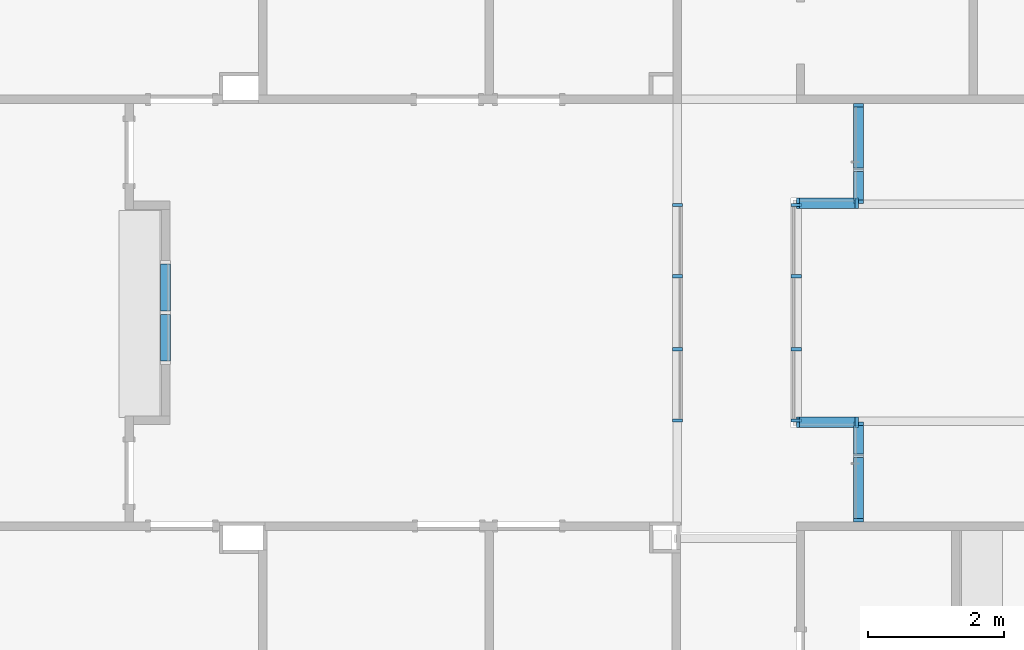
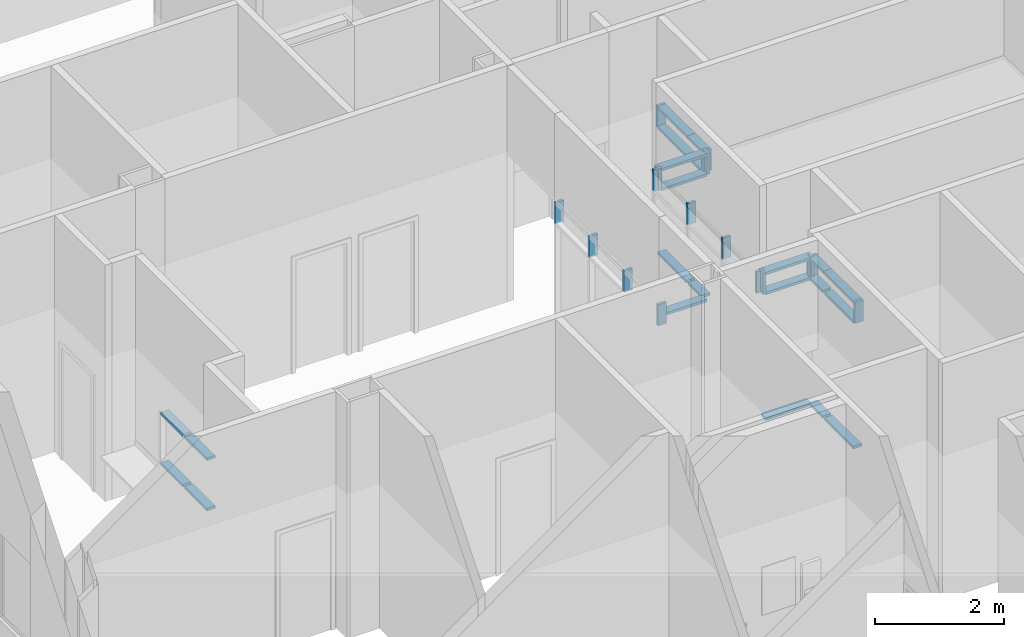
# One storey, part 11 of 87: 38 members, 7 elements without a shape of their own.
"""IFC2X3 building model written with IfcOpenShell, lengths in metres."""

from ifc_helpers import new_model, entity, si_unit, converted_unit, frame, origin, origin_2d_with_axis, place, context, project, spatial, rectangle, extrude, source, transform, mapped, material, type_object, type_shapes, element, aggregate, save


model = new_model("IFC2X3")

# Units and contexts
model_context = context("Model", 3, precision=1e-09, world=origin())
plan_context = context("Plan", 3, precision=1e-09, world=origin())
ifc_project = project(units=[si_unit("LENGTHUNIT", "METRE"), si_unit("AREAUNIT", "SQUARE_METRE"), si_unit("VOLUMEUNIT", "CUBIC_METRE"), converted_unit("PLANEANGLEUNIT", "DEGREE", entity("IfcRatioMeasure", 0.01745329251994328), si_unit("PLANEANGLEUNIT", "RADIAN"), dimensions=[0, 0, 0, 0, 0, 0, 0]), si_unit("TIMEUNIT", "SECOND")], contexts=[model_context, plan_context])

# Site, building, storey
site_placement = place(None, origin())
site = spatial("IfcSite", under=ifc_project, at=site_placement, Name="Default", CompositionType="ELEMENT")
building_placement = place(site_placement, origin())
building = spatial("IfcBuilding", under=site, at=building_placement, CompositionType="ELEMENT")
storey_placement = place(building_placement, origin())
storey = spatial("IfcBuildingStorey", under=building, at=storey_placement, Name="First Floor", CompositionType="ELEMENT", Elevation=-3.531500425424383e-13)

# Curtain wall, members
curtain_wall_1_placement = place(storey_placement, origin())
curtain_wall_1 = element("IfcCurtainWall", 1, at=curtain_wall_1_placement, inside=storey, Name="Curtain Wall:Storefront - Interior", ObjectType="Curtain Wall:Storefront - Interior")
ifc_material = material(Name="Metal - Aluminium")
member_type_1 = type_object("IfcMemberType", Name="50 x 150mm", PredefinedType="MULLION")
shared_shape_1 = source(origin(), model_context, "Body", "SweptSolid", [
    extrude(rectangle(XDim=0.05, YDim=0.15, at=origin_2d_with_axis()), frame((-0.025, 0.0, -0.4439994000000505), z_axis=(0.0, 0.0, 1.0), x_axis=(-1.0, 0.0, 0.0)), (0.0, 0.0, 1.0), 0.4439994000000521),
])
type_shapes(member_type_1, [shared_shape_1])
member_1_placement = place(storey_placement, frame((-37.80500000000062, 30.02999999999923, 2.8), z_axis=(0.0, 1.0, 0.0), x_axis=(0.0, 0.0, 1.0)))
member_1 = element("IfcMember", 2, at=member_1_placement, type_object=member_type_1, material=ifc_material, Name="Rectangular Mullion:50 x 150mm:50 x 150mm", ObjectType="50 x 150mm", context=model_context, shape_type="MappedRepresentation", body=[
    mapped(shared_shape_1, transform((0.0, 0.0, 0.0), scale=1.0)),
])
member_type_2 = type_object("IfcMemberType", Name="50 x 150mm", PredefinedType="MULLION")
shared_shape_2 = source(origin(), model_context, "Body", "SweptSolid", [
    extrude(rectangle(XDim=0.05, YDim=0.15, at=origin_2d_with_axis()), frame((-0.025, 0.0, -0.9010005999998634), z_axis=(0.0, 0.0, 1.0), x_axis=(-1.0, 0.0, 0.0)), (0.0, 0.0, 1.0), 0.9010005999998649),
])
type_shapes(member_type_2, [shared_shape_2])
member_2_placement = place(storey_placement, frame((-37.80500000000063, 28.65999999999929, 0.0), z_axis=(0.0, -1.0, 0.0), x_axis=(0.0, 0.0, -1.0)))
member_2 = element("IfcMember", 3, at=member_2_placement, type_object=member_type_2, material=ifc_material, Name="Rectangular Mullion:50 x 150mm:50 x 150mm", ObjectType="50 x 150mm", context=model_context, shape_type="MappedRepresentation", body=[
    mapped(shared_shape_2, transform((0.0, 0.0, 0.0), scale=1.0)),
])
member_type_3 = type_object("IfcMemberType", Name="50 x 150mm", PredefinedType="MULLION")
shared_shape_3 = source(origin(), model_context, "Body", "SweptSolid", [
    extrude(rectangle(XDim=0.05, YDim=0.15, at=origin_2d_with_axis()), frame((-0.025, 0.0, -0.4), z_axis=(0.0, 0.0, 1.0), x_axis=(-1.0, 0.0, 0.0)), (0.0, 0.0, 1.0), 0.4),
])
type_shapes(member_type_3, [shared_shape_3])
member_3_placement = place(storey_placement, frame((-37.80500000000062, 30.07999999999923, 2.399999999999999), z_axis=(0.0, 0.0, -1.0), x_axis=(0.0, 1.0, 0.0)))
member_3 = element("IfcMember", 4, at=member_3_placement, type_object=member_type_3, material=ifc_material, Name="Rectangular Mullion:50 x 150mm:50 x 150mm", ObjectType="50 x 150mm", context=model_context, shape_type="MappedRepresentation", body=[
    mapped(shared_shape_3, transform((0.0, 0.0, 0.0), scale=1.0)),
])

# Curtain wall, member
curtain_wall_2_placement = place(storey_placement, origin())
curtain_wall_2 = element("IfcCurtainWall", 5, at=curtain_wall_2_placement, inside=storey, Name="Curtain Wall:Storefront - Interior", ObjectType="Curtain Wall:Storefront - Interior")
member_4_placement = place(storey_placement, frame((-38.72000000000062, 30.07999999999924, 2.399999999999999), z_axis=(0.0, 0.0, -1.0), x_axis=(-1.0, 0.0, 0.0)))
member_4 = element("IfcMember", 6, at=member_4_placement, type_object=member_type_3, material=ifc_material, Name="Rectangular Mullion:50 x 150mm:50 x 150mm", ObjectType="50 x 150mm", context=model_context, shape_type="MappedRepresentation", body=[
    mapped(shared_shape_3, transform((0.0, 0.0, 0.0), scale=1.0)),
])

curtain_wall_3_placement = place(storey_placement, origin())
curtain_wall_3 = element("IfcCurtainWall", 7, at=curtain_wall_3_placement, inside=storey, Name="Curtain Wall:Storefront - Interior", ObjectType="Curtain Wall:Storefront - Interior")
member_5_placement = place(storey_placement, frame((-38.72000000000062, 33.30999999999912, 2.399999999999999), z_axis=(0.0, 0.0, -1.0), x_axis=(0.0, 1.0, 0.0)))
member_5 = element("IfcMember", 8, at=member_5_placement, type_object=member_type_3, material=ifc_material, Name="Rectangular Mullion:50 x 150mm:50 x 150mm", ObjectType="50 x 150mm", context=model_context, shape_type="MappedRepresentation", body=[
    mapped(shared_shape_3, transform((0.0, 0.0, 0.0), scale=1.0)),
])

curtain_wall_4_placement = place(storey_placement, origin())
curtain_wall_4 = element("IfcCurtainWall", 9, at=curtain_wall_4_placement, inside=storey, Name="Curtain Wall:Storefront - Interior", ObjectType="Curtain Wall:Storefront - Interior")
member_6_placement = place(storey_placement, frame((-37.80500000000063, 33.30999999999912, 2.399999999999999), z_axis=(0.0, 0.0, -1.0), x_axis=(1.0, 0.0, 0.0)))
member_6 = element("IfcMember", 10, at=member_6_placement, type_object=member_type_3, material=ifc_material, Name="Rectangular Mullion:50 x 150mm:50 x 150mm", ObjectType="50 x 150mm", context=model_context, shape_type="MappedRepresentation", body=[
    mapped(shared_shape_3, transform((0.0, 0.0, 0.0), scale=1.0)),
])

curtain_wall_5_placement = place(storey_placement, origin())
curtain_wall_5 = element("IfcCurtainWall", 11, at=curtain_wall_5_placement, inside=storey, Name="Curtain Wall:Storefront - Interior", ObjectType="Curtain Wall:Storefront - Interior")
member_7_placement = place(storey_placement, frame((-37.80500000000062, 34.77954814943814, 2.399999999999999), z_axis=(0.0, 0.0, -1.0), x_axis=(0.0, 1.0, 0.0)))
member_7 = element("IfcMember", 12, at=member_7_placement, type_object=member_type_3, material=ifc_material, Name="Rectangular Mullion:50 x 150mm:50 x 150mm", ObjectType="50 x 150mm", context=model_context, shape_type="MappedRepresentation", body=[
    mapped(shared_shape_3, transform((0.0, 0.0, 0.0), scale=1.0)),
])

curtain_wall_6_placement = place(storey_placement, origin())
curtain_wall_6 = element("IfcCurtainWall", 13, at=curtain_wall_6_placement, inside=storey, Name="Curtain Wall:Storefront - Interior", ObjectType="Curtain Wall:Storefront - Interior")
member_8_placement = place(storey_placement, frame((-40.47500000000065, 30.07999999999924, 2.4), z_axis=(0.0, 0.0, -1.0), x_axis=(0.0, -1.0, 0.0)))
member_8 = element("IfcMember", 14, at=member_8_placement, type_object=member_type_3, material=ifc_material, Name="Rectangular Mullion:50 x 150mm:50 x 150mm", ObjectType="50 x 150mm", context=model_context, shape_type="MappedRepresentation", body=[
    mapped(shared_shape_3, transform((0.0, 0.0, 0.0), scale=1.0)),
])

# Member
member_type_4 = type_object("IfcMemberType", Name="50 x 150mm", PredefinedType="MULLION")
shared_shape_4 = source(origin(), model_context, "Body", "SweptSolid", [
    extrude(rectangle(XDim=0.05, YDim=0.15, at=origin_2d_with_axis()), frame((-0.025, 0.0, -0.4), z_axis=(0.0, 0.0, 1.0), x_axis=(-1.0, 0.0, 0.0)), (0.0, 0.0, 1.0), 0.4),
])
type_shapes(member_type_4, [shared_shape_4])
member_9_placement = place(storey_placement, frame((-37.80500000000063, 28.60999999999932, 2.8), z_axis=(0.0, 0.0, 1.0), x_axis=(0.0, -1.0, 0.0)))
member_9 = element("IfcMember", 15, at=member_9_placement, type_object=member_type_4, material=ifc_material, Name="Rectangular Mullion:50 x 150mm:50 x 150mm", ObjectType="50 x 150mm", context=model_context, shape_type="MappedRepresentation", body=[
    mapped(shared_shape_4, transform((0.0, 0.0, 0.0), scale=1.0)),
])

member_10_placement = place(storey_placement, frame((-37.80500000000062, 30.07999999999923, 2.8)))
member_10 = element("IfcMember", 16, at=member_10_placement, type_object=member_type_4, material=ifc_material, Name="Rectangular Mullion:50 x 150mm:50 x 150mm", ObjectType="50 x 150mm", context=model_context, shape_type="MappedRepresentation", body=[
    mapped(shared_shape_4, transform((0.0, 0.0, 0.0), scale=1.0)),
])

member_11_placement = place(storey_placement, frame((-38.72000000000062, 30.07999999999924, 2.8), z_axis=(0.0, 0.0, 1.0), x_axis=(0.0, -1.0, 0.0)))
member_11 = element("IfcMember", 17, at=member_11_placement, type_object=member_type_4, material=ifc_material, Name="Rectangular Mullion:50 x 150mm:50 x 150mm", ObjectType="50 x 150mm", context=model_context, shape_type="MappedRepresentation", body=[
    mapped(shared_shape_4, transform((0.0, 0.0, 0.0), scale=1.0)),
])

member_12_placement = place(storey_placement, frame((-38.72000000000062, 33.30999999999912, 2.8), z_axis=(0.0, 0.0, 1.0), x_axis=(-1.0, 0.0, 0.0)))
member_12 = element("IfcMember", 18, at=member_12_placement, type_object=member_type_4, material=ifc_material, Name="Rectangular Mullion:50 x 150mm:50 x 150mm", ObjectType="50 x 150mm", context=model_context, shape_type="MappedRepresentation", body=[
    mapped(shared_shape_4, transform((0.0, 0.0, 0.0), scale=1.0)),
])

member_13_placement = place(storey_placement, frame((-37.80500000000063, 33.30999999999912, 2.8), z_axis=(0.0, 0.0, 1.0), x_axis=(0.0, -1.0, 0.0)))
member_13 = element("IfcMember", 19, at=member_13_placement, type_object=member_type_4, material=ifc_material, Name="Rectangular Mullion:50 x 150mm:50 x 150mm", ObjectType="50 x 150mm", context=model_context, shape_type="MappedRepresentation", body=[
    mapped(shared_shape_4, transform((0.0, 0.0, 0.0), scale=1.0)),
])

member_14_placement = place(storey_placement, frame((-40.47500000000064, 33.30999999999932, 2.8), z_axis=(0.0, 0.0, 1.0), x_axis=(0.0, 1.0, 0.0)))
member_14 = element("IfcMember", 20, at=member_14_placement, type_object=member_type_4, material=ifc_material, Name="Rectangular Mullion:50 x 150mm:50 x 150mm", ObjectType="50 x 150mm", context=model_context, shape_type="MappedRepresentation", body=[
    mapped(shared_shape_4, transform((0.0, 0.0, 0.0), scale=1.0)),
])

member_type_5 = type_object("IfcMemberType", Name="50 x 150mm", PredefinedType="MULLION")
shared_shape_5 = source(origin(), model_context, "Body", "SweptSolid", [
    extrude(rectangle(XDim=0.05, YDim=0.15, at=origin_2d_with_axis()), frame((0.0, 0.0, -0.9010005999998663), z_axis=(0.0, 0.0, 1.0), x_axis=(-1.0, 0.0, 0.0)), (0.0, 0.0, 1.0), 0.9010005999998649),
])
type_shapes(member_type_5, [shared_shape_5])
member_15_placement = place(storey_placement, frame((-37.80500000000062, 29.56100059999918, 2.399999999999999), z_axis=(0.0, 1.0, 0.0), x_axis=(0.0, 0.0, 1.0)))
member_15 = element("IfcMember", 21, at=member_15_placement, type_object=member_type_5, material=ifc_material, Name="Rectangular Mullion:50 x 150mm:50 x 150mm", ObjectType="50 x 150mm", context=model_context, shape_type="MappedRepresentation", body=[
    mapped(shared_shape_5, transform((0.0, 0.0, 0.0), scale=1.0)),
])

member_type_6 = type_object("IfcMemberType", Name="50 x 150mm", PredefinedType="MULLION")
shared_shape_6 = source(origin(), model_context, "Body", "SweptSolid", [
    extrude(rectangle(XDim=0.05, YDim=0.15, at=origin_2d_with_axis()), frame((-0.025, 0.0, -0.926000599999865), z_axis=(0.0, 0.0, 1.0), x_axis=(-1.0, 0.0, 0.0)), (0.0, 0.0, 1.0), 0.926000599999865),
])
type_shapes(member_type_6, [shared_shape_6])
member_16_placement = place(storey_placement, frame((-37.80500000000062, 29.58600059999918, 2.8), z_axis=(0.0, 1.0, 0.0), x_axis=(0.0, 0.0, 1.0)))
member_16 = element("IfcMember", 22, at=member_16_placement, type_object=member_type_6, material=ifc_material, Name="Rectangular Mullion:50 x 150mm:50 x 150mm", ObjectType="50 x 150mm", context=model_context, shape_type="MappedRepresentation", body=[
    mapped(shared_shape_6, transform((0.0, 0.0, 0.0), scale=1.0)),
])

member_type_7 = type_object("IfcMemberType", Name="50 x 150mm", PredefinedType="MULLION")
shared_shape_7 = source(origin(), model_context, "Body", "SweptSolid", [
    extrude(rectangle(XDim=0.05, YDim=0.15, at=origin_2d_with_axis()), frame((-0.025, 0.0, -0.4189994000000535), z_axis=(0.0, 0.0, 1.0), x_axis=(-1.0, 0.0, 0.0)), (0.0, 0.0, 1.0), 0.4189994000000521),
])
type_shapes(member_type_7, [shared_shape_7])
member_17_placement = place(storey_placement, frame((-37.80500000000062, 29.61100059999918, 0.0), z_axis=(0.0, -1.0, 0.0), x_axis=(0.0, 0.0, -1.0)))
member_17 = element("IfcMember", 23, at=member_17_placement, type_object=member_type_7, material=ifc_material, Name="Rectangular Mullion:50 x 150mm:50 x 150mm", ObjectType="50 x 150mm", context=model_context, shape_type="MappedRepresentation", body=[
    mapped(shared_shape_7, transform((0.0, 0.0, 0.0), scale=1.0)),
])

member_type_8 = type_object("IfcMemberType", Name="50 x 150mm", PredefinedType="MULLION")
shared_shape_8 = source(origin(), model_context, "Body", "SweptSolid", [
    extrude(rectangle(XDim=0.05, YDim=0.15, at=origin_2d_with_axis()), frame((0.0, 0.0, -0.4189994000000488), z_axis=(0.0, 0.0, 1.0), x_axis=(-1.0, 0.0, 0.0)), (0.0, 0.0, 1.0), 0.4189994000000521),
])
type_shapes(member_type_8, [shared_shape_8])
member_18_placement = place(storey_placement, frame((-37.80500000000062, 30.02999999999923, 2.399999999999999), z_axis=(0.0, 1.0, 0.0), x_axis=(0.0, 0.0, 1.0)))
member_18 = element("IfcMember", 24, at=member_18_placement, type_object=member_type_8, material=ifc_material, Name="Rectangular Mullion:50 x 150mm:50 x 150mm", ObjectType="50 x 150mm", context=model_context, shape_type="MappedRepresentation", body=[
    mapped(shared_shape_8, transform((0.0, 0.0, 0.0), scale=1.0)),
])

aggregate(curtain_wall_1, [member_1, member_2, member_3, member_9, member_15, member_16, member_17, member_18])

member_type_9 = type_object("IfcMemberType", Name="50 x 150mm", PredefinedType="MULLION")
shared_shape_9 = source(origin(), model_context, "Body", "SweptSolid", [
    extrude(rectangle(XDim=0.05, YDim=0.15, at=origin_2d_with_axis()), frame((-0.025, 0.0, -0.8149999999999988), z_axis=(0.0, 0.0, 1.0), x_axis=(-1.0, 0.0, 0.0)), (0.0, 0.0, 1.0), 0.815),
])
type_shapes(member_type_9, [shared_shape_9])
member_19_placement = place(storey_placement, frame((-38.67000000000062, 30.07999999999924, 2.8), z_axis=(-1.0, 0.0, 0.0), x_axis=(0.0, 0.0, 1.0)))
member_19 = element("IfcMember", 25, at=member_19_placement, type_object=member_type_9, material=ifc_material, Name="Rectangular Mullion:50 x 150mm:50 x 150mm", ObjectType="50 x 150mm", context=model_context, shape_type="MappedRepresentation", body=[
    mapped(shared_shape_9, transform((0.0, 0.0, 0.0), scale=1.0)),
])

member_20_placement = place(storey_placement, frame((-37.85500000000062, 33.30999999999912, 2.8), z_axis=(1.0, 0.0, 0.0), x_axis=(0.0, 0.0, 1.0)))
member_20 = element("IfcMember", 26, at=member_20_placement, type_object=member_type_9, material=ifc_material, Name="Rectangular Mullion:50 x 150mm:50 x 150mm", ObjectType="50 x 150mm", context=model_context, shape_type="MappedRepresentation", body=[
    mapped(shared_shape_9, transform((0.0, 0.0, 0.0), scale=1.0)),
])

member_type_10 = type_object("IfcMemberType", Name="50 x 150mm", PredefinedType="MULLION")
shared_shape_10 = source(origin(), model_context, "Body", "SweptSolid", [
    extrude(rectangle(XDim=0.05, YDim=0.15, at=origin_2d_with_axis()), frame((-0.025, 0.0, -0.8149999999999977), z_axis=(0.0, 0.0, 1.0), x_axis=(-1.0, 0.0, 0.0)), (0.0, 0.0, 1.0), 0.815),
])
type_shapes(member_type_10, [shared_shape_10])
member_21_placement = place(storey_placement, frame((-37.85500000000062, 30.07999999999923, 0.0), z_axis=(1.0, 0.0, 0.0), x_axis=(0.0, 0.0, -1.0)))
member_21 = element("IfcMember", 27, at=member_21_placement, type_object=member_type_10, material=ifc_material, Name="Rectangular Mullion:50 x 150mm:50 x 150mm", ObjectType="50 x 150mm", context=model_context, shape_type="MappedRepresentation", body=[
    mapped(shared_shape_10, transform((0.0, 0.0, 0.0), scale=1.0)),
])

member_22_placement = place(storey_placement, frame((-38.67000000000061, 33.30999999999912, 0.0), z_axis=(-1.0, 0.0, 0.0), x_axis=(0.0, 0.0, -1.0)))
member_22 = element("IfcMember", 28, at=member_22_placement, type_object=member_type_10, material=ifc_material, Name="Rectangular Mullion:50 x 150mm:50 x 150mm", ObjectType="50 x 150mm", context=model_context, shape_type="MappedRepresentation", body=[
    mapped(shared_shape_10, transform((0.0, 0.0, 0.0), scale=1.0)),
])

member_type_11 = type_object("IfcMemberType", Name="50 x 150mm", PredefinedType="MULLION")
shared_shape_11 = source(origin(), model_context, "Body", "SweptSolid", [
    extrude(rectangle(XDim=0.05, YDim=0.15, at=origin_2d_with_axis()), frame((0.0, 0.0, -0.8149999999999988), z_axis=(0.0, 0.0, 1.0), x_axis=(-1.0, 0.0, 0.0)), (0.0, 0.0, 1.0), 0.815),
])
type_shapes(member_type_11, [shared_shape_11])
member_23_placement = place(storey_placement, frame((-38.67000000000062, 30.07999999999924, 2.399999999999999), z_axis=(-1.0, 0.0, 0.0), x_axis=(0.0, 0.0, 1.0)))
member_23 = element("IfcMember", 29, at=member_23_placement, type_object=member_type_11, material=ifc_material, Name="Rectangular Mullion:50 x 150mm:50 x 150mm", ObjectType="50 x 150mm", context=model_context, shape_type="MappedRepresentation", body=[
    mapped(shared_shape_11, transform((0.0, 0.0, 0.0), scale=1.0)),
])

aggregate(curtain_wall_2, [member_19, member_21, member_4, member_10, member_23])

member_24_placement = place(storey_placement, frame((-37.85500000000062, 33.30999999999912, 2.399999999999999), z_axis=(1.0, 0.0, 0.0), x_axis=(0.0, 0.0, 1.0)))
member_24 = element("IfcMember", 30, at=member_24_placement, type_object=member_type_11, material=ifc_material, Name="Rectangular Mullion:50 x 150mm:50 x 150mm", ObjectType="50 x 150mm", context=model_context, shape_type="MappedRepresentation", body=[
    mapped(shared_shape_11, transform((0.0, 0.0, 0.0), scale=1.0)),
])

aggregate(curtain_wall_4, [member_20, member_22, member_6, member_12, member_24])

member_type_12 = type_object("IfcMemberType", Name="50 x 150mm", PredefinedType="MULLION")
shared_shape_12 = source(origin(), model_context, "Body", "SweptSolid", [
    extrude(rectangle(XDim=0.05, YDim=0.15, at=origin_2d_with_axis()), frame((0.0, 0.0, -0.4), z_axis=(0.0, 0.0, 1.0), x_axis=(-1.0, 0.0, 0.0)), (0.0, 0.0, 1.0), 0.4),
])
type_shapes(member_type_12, [shared_shape_12])
member_25_placement = place(storey_placement, frame((-38.72000000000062, 31.15666666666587, 2.399999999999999), z_axis=(0.0, 0.0, -1.0), x_axis=(0.0, 1.0, 0.0)))
member_25 = element("IfcMember", 31, at=member_25_placement, type_object=member_type_12, material=ifc_material, Name="Rectangular Mullion:50 x 150mm:50 x 150mm", ObjectType="50 x 150mm", context=model_context, shape_type="MappedRepresentation", body=[
    mapped(shared_shape_12, transform((0.0, 0.0, 0.0), scale=1.0)),
])

member_26_placement = place(storey_placement, frame((-38.72000000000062, 32.2333333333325, 2.399999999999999), z_axis=(0.0, 0.0, -1.0), x_axis=(0.0, 1.0, 0.0)))
member_26 = element("IfcMember", 32, at=member_26_placement, type_object=member_type_12, material=ifc_material, Name="Rectangular Mullion:50 x 150mm:50 x 150mm", ObjectType="50 x 150mm", context=model_context, shape_type="MappedRepresentation", body=[
    mapped(shared_shape_12, transform((0.0, 0.0, 0.0), scale=1.0)),
])

aggregate(curtain_wall_3, [member_5, member_11, member_25, member_26])

member_27_placement = place(storey_placement, frame((-40.47500000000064, 32.23333333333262, 2.4), z_axis=(0.0, 0.0, -1.0), x_axis=(0.0, -1.0, 0.0)))
member_27 = element("IfcMember", 33, at=member_27_placement, type_object=member_type_12, material=ifc_material, Name="Rectangular Mullion:50 x 150mm:50 x 150mm", ObjectType="50 x 150mm", context=model_context, shape_type="MappedRepresentation", body=[
    mapped(shared_shape_12, transform((0.0, 0.0, 0.0), scale=1.0)),
])

member_28_placement = place(storey_placement, frame((-40.47500000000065, 31.15666666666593, 2.4), z_axis=(0.0, 0.0, -1.0), x_axis=(0.0, -1.0, 0.0)))
member_28 = element("IfcMember", 34, at=member_28_placement, type_object=member_type_12, material=ifc_material, Name="Rectangular Mullion:50 x 150mm:50 x 150mm", ObjectType="50 x 150mm", context=model_context, shape_type="MappedRepresentation", body=[
    mapped(shared_shape_12, transform((0.0, 0.0, 0.0), scale=1.0)),
])

aggregate(curtain_wall_6, [member_8, member_14, member_27, member_28])

member_type_13 = type_object("IfcMemberType", Name="50 x 150mm", PredefinedType="MULLION")
shared_shape_13 = source(origin(), model_context, "Body", "SweptSolid", [
    extrude(rectangle(XDim=0.05, YDim=0.15, at=origin_2d_with_axis()), frame((-0.025, 0.0, -0.9245487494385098), z_axis=(0.0, 0.0, 1.0), x_axis=(-1.0, 0.0, 0.0)), (0.0, 0.0, 1.0), 0.9245487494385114),
])
type_shapes(member_type_13, [shared_shape_13])
member_29_placement = place(storey_placement, frame((-37.80500000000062, 34.72954814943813, 2.8), z_axis=(0.0, 1.0, 0.0), x_axis=(0.0, 0.0, 1.0)))
member_29 = element("IfcMember", 35, at=member_29_placement, type_object=member_type_13, material=ifc_material, Name="Rectangular Mullion:50 x 150mm:50 x 150mm", ObjectType="50 x 150mm", context=model_context, shape_type="MappedRepresentation", body=[
    mapped(shared_shape_13, transform((0.0, 0.0, 0.0), scale=1.0)),
])

member_type_14 = type_object("IfcMemberType", Name="50 x 150mm", PredefinedType="MULLION")
shared_shape_14 = source(origin(), model_context, "Body", "SweptSolid", [
    extrude(rectangle(XDim=0.05, YDim=0.15, at=origin_2d_with_axis()), frame((-0.025, 0.0, -0.4199994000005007), z_axis=(0.0, 0.0, 1.0), x_axis=(-1.0, 0.0, 0.0)), (0.0, 0.0, 1.0), 0.4199994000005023),
])
type_shapes(member_type_14, [shared_shape_14])
member_30_placement = place(storey_placement, frame((-37.80500000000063, 33.35999999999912, 0.0), z_axis=(0.0, -1.0, 0.0), x_axis=(0.0, 0.0, -1.0)))
member_30 = element("IfcMember", 36, at=member_30_placement, type_object=member_type_14, material=ifc_material, Name="Rectangular Mullion:50 x 150mm:50 x 150mm", ObjectType="50 x 150mm", context=model_context, shape_type="MappedRepresentation", body=[
    mapped(shared_shape_14, transform((0.0, 0.0, 0.0), scale=1.0)),
])

member_type_15 = type_object("IfcMemberType", Name="50 x 150mm", PredefinedType="MULLION")
shared_shape_15 = source(origin(), model_context, "Body", "SweptSolid", [
    extrude(rectangle(XDim=0.05, YDim=0.15, at=origin_2d_with_axis()), frame((0.0, 0.0, -0.4199994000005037), z_axis=(0.0, 0.0, 1.0), x_axis=(-1.0, 0.0, 0.0)), (0.0, 0.0, 1.0), 0.4199994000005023),
])
type_shapes(member_type_15, [shared_shape_15])
member_31_placement = place(storey_placement, frame((-37.80500000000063, 33.77999939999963, 2.399999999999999), z_axis=(0.0, 1.0, 0.0), x_axis=(0.0, 0.0, 1.0)))
member_31 = element("IfcMember", 37, at=member_31_placement, type_object=member_type_15, material=ifc_material, Name="Rectangular Mullion:50 x 150mm:50 x 150mm", ObjectType="50 x 150mm", context=model_context, shape_type="MappedRepresentation", body=[
    mapped(shared_shape_15, transform((0.0, 0.0, 0.0), scale=1.0)),
])

member_type_16 = type_object("IfcMemberType", Name="50 x 150mm", PredefinedType="MULLION")
shared_shape_16 = source(origin(), model_context, "Body", "SweptSolid", [
    extrude(rectangle(XDim=0.05, YDim=0.15, at=origin_2d_with_axis()), frame((-0.025, 0.0, -0.4449994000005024), z_axis=(0.0, 0.0, 1.0), x_axis=(-1.0, 0.0, 0.0)), (0.0, 0.0, 1.0), 0.4449994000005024),
])
type_shapes(member_type_16, [shared_shape_16])
member_32_placement = place(storey_placement, frame((-37.80500000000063, 33.80499939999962, 2.8), z_axis=(0.0, 1.0, 0.0), x_axis=(0.0, 0.0, 1.0)))
member_32 = element("IfcMember", 38, at=member_32_placement, type_object=member_type_16, material=ifc_material, Name="Rectangular Mullion:50 x 150mm:50 x 150mm", ObjectType="50 x 150mm", context=model_context, shape_type="MappedRepresentation", body=[
    mapped(shared_shape_16, transform((0.0, 0.0, 0.0), scale=1.0)),
])

member_type_17 = type_object("IfcMemberType", Name="50 x 150mm", PredefinedType="MULLION")
shared_shape_17 = source(origin(), model_context, "Body", "SweptSolid", [
    extrude(rectangle(XDim=0.05, YDim=0.15, at=origin_2d_with_axis()), frame((-0.025, 0.0, -0.8995487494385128), z_axis=(0.0, 0.0, 1.0), x_axis=(-1.0, 0.0, 0.0)), (0.0, 0.0, 1.0), 0.8995487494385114),
])
type_shapes(member_type_17, [shared_shape_17])
member_33_placement = place(storey_placement, frame((-37.80500000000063, 33.82999939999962, 0.0), z_axis=(0.0, -1.0, 0.0), x_axis=(0.0, 0.0, -1.0)))
member_33 = element("IfcMember", 39, at=member_33_placement, type_object=member_type_17, material=ifc_material, Name="Rectangular Mullion:50 x 150mm:50 x 150mm", ObjectType="50 x 150mm", context=model_context, shape_type="MappedRepresentation", body=[
    mapped(shared_shape_17, transform((0.0, 0.0, 0.0), scale=1.0)),
])

member_type_18 = type_object("IfcMemberType", Name="50 x 150mm", PredefinedType="MULLION")
shared_shape_18 = source(origin(), model_context, "Body", "SweptSolid", [
    extrude(rectangle(XDim=0.05, YDim=0.15, at=origin_2d_with_axis()), frame((0.0, 0.0, -0.8995487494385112), z_axis=(0.0, 0.0, 1.0), x_axis=(-1.0, 0.0, 0.0)), (0.0, 0.0, 1.0), 0.8995487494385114),
])
type_shapes(member_type_18, [shared_shape_18])
member_34_placement = place(storey_placement, frame((-37.80500000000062, 34.72954814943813, 2.399999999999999), z_axis=(0.0, 1.0, 0.0), x_axis=(0.0, 0.0, 1.0)))
member_34 = element("IfcMember", 40, at=member_34_placement, type_object=member_type_18, material=ifc_material, Name="Rectangular Mullion:50 x 150mm:50 x 150mm", ObjectType="50 x 150mm", context=model_context, shape_type="MappedRepresentation", body=[
    mapped(shared_shape_18, transform((0.0, 0.0, 0.0), scale=1.0)),
])

aggregate(curtain_wall_5, [member_29, member_30, member_7, member_13, member_31, member_32, member_33, member_34])

# Curtain wall, members
curtain_wall_7_placement = place(storey_placement, origin())
curtain_wall_7 = element("IfcCurtainWall", 41, at=curtain_wall_7_placement, inside=storey, Name="Curtain Wall:Storefront - Interior", ObjectType="Curtain Wall:Storefront - Interior")
member_type_19 = type_object("IfcMemberType", Name="50 x 150mm", PredefinedType="MULLION")
shared_shape_19 = source(origin(), model_context, "Body", "SweptSolid", [
    extrude(rectangle(XDim=0.05, YDim=0.15, at=origin_2d_with_axis()), frame((-0.025, 0.0, -0.6920000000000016), z_axis=(0.0, 0.0, 1.0), x_axis=(-1.0, 0.0, 0.0)), (0.0, 0.0, 1.0), 0.6920000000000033),
])
type_shapes(member_type_19, [shared_shape_19])
member_35_placement = place(storey_placement, frame((-48.02299986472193, 30.97999999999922, 2.0), z_axis=(0.0, -1.0, 0.0), x_axis=(0.0, 0.0, 1.0)))
member_35 = element("IfcMember", 42, at=member_35_placement, type_object=member_type_19, material=ifc_material, Name="Rectangular Mullion:50 x 150mm:50 x 150mm", ObjectType="50 x 150mm", context=model_context, shape_type="MappedRepresentation", body=[
    mapped(shared_shape_19, transform((0.0, 0.0, 0.0), scale=1.0)),
])
member_36_placement = place(storey_placement, frame((-48.02299986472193, 31.72199999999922, 2.0), z_axis=(0.0, -1.0, 0.0), x_axis=(0.0, 0.0, 1.0)))
member_36 = element("IfcMember", 43, at=member_36_placement, type_object=member_type_19, material=ifc_material, Name="Rectangular Mullion:50 x 150mm:50 x 150mm", ObjectType="50 x 150mm", context=model_context, shape_type="MappedRepresentation", body=[
    mapped(shared_shape_19, transform((0.0, 0.0, 0.0), scale=1.0)),
])
member_type_20 = type_object("IfcMemberType", Name="50 x 150mm", PredefinedType="MULLION")
shared_shape_20 = source(origin(), model_context, "Body", "SweptSolid", [
    extrude(rectangle(XDim=0.05, YDim=0.15, at=origin_2d_with_axis()), frame((-0.025, 0.0, -0.6919999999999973), z_axis=(0.0, 0.0, 1.0), x_axis=(-1.0, 0.0, 0.0)), (0.0, 0.0, 1.0), 0.691999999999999),
])
type_shapes(member_type_20, [shared_shape_20])
member_37_placement = place(storey_placement, frame((-48.02299986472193, 32.41399999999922, 1.0), z_axis=(0.0, 1.0, 0.0), x_axis=(0.0, 0.0, -1.0)))
member_37 = element("IfcMember", 44, at=member_37_placement, type_object=member_type_20, material=ifc_material, Name="Rectangular Mullion:50 x 150mm:50 x 150mm", ObjectType="50 x 150mm", context=model_context, shape_type="MappedRepresentation", body=[
    mapped(shared_shape_20, transform((0.0, 0.0, 0.0), scale=1.0)),
])
member_38_placement = place(storey_placement, frame((-48.02299986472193, 31.67199999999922, 1.0), z_axis=(0.0, 1.0, 0.0), x_axis=(0.0, 0.0, -1.0)))
member_38 = element("IfcMember", 45, at=member_38_placement, type_object=member_type_20, material=ifc_material, Name="Rectangular Mullion:50 x 150mm:50 x 150mm", ObjectType="50 x 150mm", context=model_context, shape_type="MappedRepresentation", body=[
    mapped(shared_shape_20, transform((0.0, 0.0, 0.0), scale=1.0)),
])
aggregate(curtain_wall_7, [member_35, member_36, member_37, member_38])

save(model, "model.ifc")
